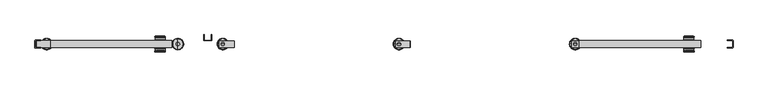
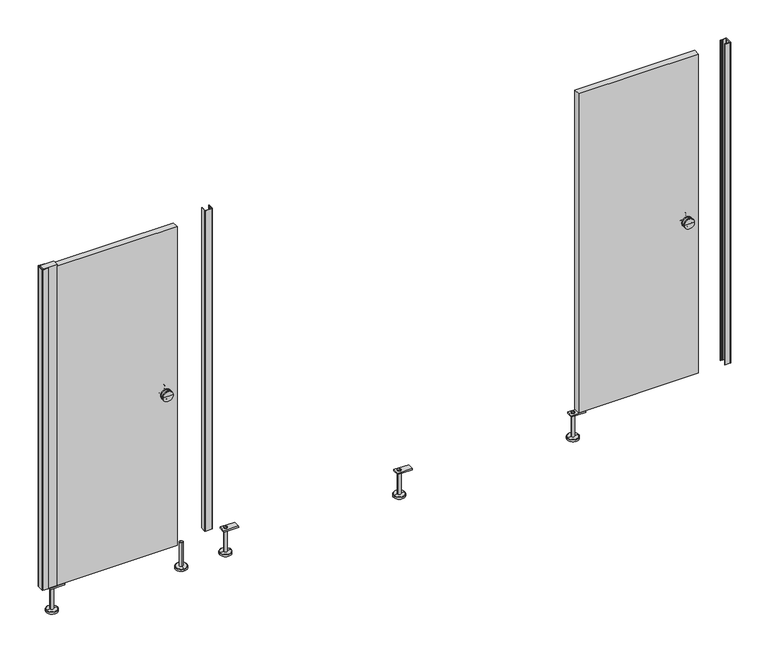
"""IFC4 building model written with IfcOpenShell, lengths in millimetres: proxy geometry, Partition_EuroStyle-Bradley_Corp-4StandardStall-NEP-LOFT : Partition_EuroStyle-Bradley_Corp-4StandardStall-NEP-LOFT."""

from ifc_helpers import new_model, si_unit, point, frame, frame_2d, origin, place, context, project, spatial, polyline, circle_curve, ellipse_curve, trimmed, segment, composite_curve, outline, extrude, source, transform, mapped, element, save
from ifc_brep_helpers import plane_surface, cylinder_surface, revolved_surface, advanced_brep


def specialty_equipment_607a9d4f(model_context):
    return source(origin(), model_context, "Body", "SolidModel", [
        extrude(outline(composite_curve([segment(polyline([(3606.1203249, -1562.4911004), (3606.1203249, -1560.9925148)]), True, "CONTINUOUS"), segment(trimmed(circle_curve(frame_2d((3607.119417, -1560.9960822)), 0.9990984), [point((3606.1203249, -1560.9925148))], [point((3607.9991049, -1560.5224296))], False, "CARTESIAN"), True, "CONTINUOUS"), segment(polyline([(3607.9991049, -1560.5224296), (3615.262755, -1560.6435396)]), True, "CONTINUOUS"), segment(trimmed(circle_curve(frame_2d((3616.1202701, -1561.1610855)), 1.0015917), [point((3615.262755, -1560.6435396))], [point((3616.994565, -1560.6724196))], False, "CARTESIAN"), True, "CONTINUOUS"), segment(polyline([(3616.994565, -1560.6724196), (3634.6307782, -1560.9664751)]), True, "CONTINUOUS"), segment(trimmed(circle_curve(frame_2d((3634.6201048, -1558.9662832)), 2.0002204), [point((3634.6307782, -1560.9664751))], [point((3636.6203252, -1558.9662832))], True, "CARTESIAN"), True, "CONTINUOUS"), segment(polyline([(3636.6203252, -1558.9662832), (3636.6203251, -1525.0819842)]), True, "CONTINUOUS"), segment(trimmed(circle_curve(frame_2d((3634.6212312, -1525.0329646)), 1.9996948), [point((3636.6203251, -1525.0819842))], [point((3634.6203251, -1523.03327))], True, "CARTESIAN"), True, "CONTINUOUS"), segment(polyline([(3634.6203251, -1523.03327), (3616.9943238, -1523.3273213)]), True, "CONTINUOUS"), segment(trimmed(circle_curve(frame_2d((3616.1202701, -1522.8382242)), 1.0015917), [point((3616.9943238, -1523.3273213))], [point((3615.262755, -1523.3557701))], False, "CARTESIAN"), True, "CONTINUOUS"), segment(polyline([(3615.262755, -1523.3557701), (3607.9991049, -1523.4768801)]), True, "CONTINUOUS"), segment(trimmed(circle_curve(frame_2d((3607.119417, -1523.0032275)), 0.9990984), [point((3607.9991049, -1523.4768801))], [point((3606.1203249, -1523.0067949))], False, "CARTESIAN"), True, "CONTINUOUS"), segment(polyline([(3606.1203249, -1523.0067949), (3606.1203249, -1521.5082093), (3636.5911451, -1520.9998702)]), True, "CONTINUOUS"), segment(trimmed(circle_curve(frame_2d((3636.5911451, -1523.0290502)), 2.02918), [point((3636.5911451, -1520.9998702))], [point((3638.6203251, -1523.0290502))], False, "CARTESIAN"), True, "CONTINUOUS"), segment(polyline([(3638.6203251, -1523.0290502), (3638.6203251, -1560.9702595)]), True, "CONTINUOUS"), segment(trimmed(circle_curve(frame_2d((3636.5911451, -1560.9702595)), 2.02918), [point((3638.6203251, -1560.9702595))], [point((3636.5911451, -1562.9994395))], False, "CARTESIAN"), True, "CONTINUOUS"), segment(polyline([(3636.5911451, -1562.9994395), (3606.1203249, -1562.4911004)]), True, "CONTINUOUS")], self_intersect=False)), frame((0.0, 0.0, 150.0), z_axis=(0.0, 0.0, 1.0), x_axis=(1.0, 0.0, 0.0)), (0.0, 0.0, 1.0), 1855.0),
        extrude(outline(composite_curve([segment(polyline([(784.918717, -1491.4999998), (786.4173026, -1491.4999998)]), True, "CONTINUOUS"), segment(trimmed(circle_curve(frame_2d((786.4137352, -1492.4990918)), 0.9990984), [point((786.4173026, -1491.4999998))], [point((786.8873879, -1493.3787798))], False, "CARTESIAN"), True, "CONTINUOUS"), segment(polyline([(786.8873879, -1493.3787798), (786.7662779, -1500.6424298)]), True, "CONTINUOUS"), segment(trimmed(circle_curve(frame_2d((786.248732, -1501.4999449)), 1.0015917), [point((786.7662779, -1500.6424298))], [point((786.7373979, -1502.3742398))], False, "CARTESIAN"), True, "CONTINUOUS"), segment(polyline([(786.7373979, -1502.3742398), (786.4433424, -1520.0104531)]), True, "CONTINUOUS"), segment(trimmed(circle_curve(frame_2d((788.4435342, -1519.9997796)), 2.0002204), [point((786.4433424, -1520.0104531))], [point((788.4435342, -1522.0))], True, "CARTESIAN"), True, "CONTINUOUS"), segment(polyline([(788.4435342, -1522.0), (822.3278332, -1522.0)]), True, "CONTINUOUS"), segment(trimmed(circle_curve(frame_2d((822.3768528, -1520.0009061)), 1.9996948), [point((822.3278332, -1522.0))], [point((824.3765475, -1520.0))], True, "CARTESIAN"), True, "CONTINUOUS"), segment(polyline([(824.3765475, -1520.0), (824.0824961, -1502.3739987)]), True, "CONTINUOUS"), segment(trimmed(circle_curve(frame_2d((824.5715932, -1501.4999449)), 1.0015917), [point((824.0824961, -1502.3739987))], [point((824.0540473, -1500.6424298))], False, "CARTESIAN"), True, "CONTINUOUS"), segment(polyline([(824.0540473, -1500.6424298), (823.9329373, -1493.3787798)]), True, "CONTINUOUS"), segment(trimmed(circle_curve(frame_2d((824.4065899, -1492.4990918)), 0.9990984), [point((823.9329373, -1493.3787798))], [point((824.4030225, -1491.4999998))], False, "CARTESIAN"), True, "CONTINUOUS"), segment(polyline([(824.4030225, -1491.4999998), (825.9016081, -1491.4999998), (826.4099473, -1521.97082)]), True, "CONTINUOUS"), segment(trimmed(circle_curve(frame_2d((824.3807672, -1521.97082)), 2.02918), [point((826.4099473, -1521.97082))], [point((824.3807672, -1524.0))], False, "CARTESIAN"), True, "CONTINUOUS"), segment(polyline([(824.3807672, -1524.0), (786.4395579, -1524.0)]), True, "CONTINUOUS"), segment(trimmed(circle_curve(frame_2d((786.4395579, -1521.97082)), 2.02918), [point((786.4395579, -1524.0))], [point((784.4103779, -1521.97082))], False, "CARTESIAN"), True, "CONTINUOUS"), segment(polyline([(784.4103779, -1521.97082), (784.918717, -1491.4999998)]), True, "CONTINUOUS")], self_intersect=False)), frame((0.0, 0.0, 150.0), z_axis=(0.0, 0.0, 1.0), x_axis=(1.0, 0.0, 0.0)), (0.0, 0.0, 1.0), 1855.0),
        extrude(outline(polyline([(146.0000008, 867.8203258), (138.0669895, 867.8203258), (138.0669895, 947.6675589), (146.0000008, 947.5689968), (146.0000008, 867.8203258)])), frame((0.0, -1559.4621549, 0.0), z_axis=(0.0, 1.0, 0.0), x_axis=(0.0, 0.0, 1.0)), (0.0, 0.0, 1.0), 34.925),
        advanced_brep(
        [(895.4203248, -1541.9996549, 150.0000008), (877.4203255, -1541.9996549, 150.0000008), (877.4203255, -1541.9996549, 12.0000001), (895.4203248, -1541.9996549, 12.0000001), (886.4203251, -1541.9996549, 150.0000008), (917.4203241, -1541.9996549, 0.0), (855.4203262, -1541.9996549, 0.0), (886.4203251, -1541.9996549, 0.0), (917.4203241, -1541.9996549, 10.0000001), (855.4203262, -1541.9996549, 10.0000001), (915.4179122, -1541.9996549, 12.0000001), (857.4227381, -1541.9996549, 12.0000001)],
        [
            (0, 1, circle_curve(frame((886.4203251, -1541.9996549, 150.0000008), z_axis=(0.0, 0.0, -1.0), x_axis=(-1.0, 0.0, 0.0)), 8.9999997)),
            (1, 2),
            (2, 3, circle_curve(frame((886.4203251, -1541.9996549, 12.0000001), z_axis=(0.0, 0.0, 1.0), x_axis=(-1.0, 0.0, 0.0)), 8.9999997)),
            (3, 0),
            (1, 0, circle_curve(frame((886.4203251, -1541.9996549, 150.0000008), z_axis=(0.0, 0.0, -1.0), x_axis=(-1.0, 0.0, 0.0)), 8.9999997)),
            (3, 2, circle_curve(frame((886.4203251, -1541.9996549, 12.0000001), z_axis=(0.0, 0.0, 1.0), x_axis=(-1.0, 0.0, 0.0)), 8.9999997)),
            (4, 1),
            (0, 4),
            (5, 6, circle_curve(frame((886.4203251, -1541.9996549, 0.0), z_axis=(0.0, 0.0, -1.0), x_axis=(-1.0, 0.0, 0.0)), 30.9999989)),
            (6, 7),
            (7, 5),
            (6, 5, circle_curve(frame((886.4203251, -1541.9996549, 0.0), z_axis=(0.0, 0.0, -1.0), x_axis=(-1.0, 0.0, 0.0)), 30.9999989)),
            (8, 9, circle_curve(frame((886.4203251, -1541.9996549, 10.0000001), z_axis=(0.0, 0.0, -1.0), x_axis=(-1.0, 0.0, 0.0)), 30.9999989)),
            (9, 6),
            (5, 8),
            (9, 8, circle_curve(frame((886.4203251, -1541.9996549, 10.0000001), z_axis=(0.0, 0.0, -1.0), x_axis=(-1.0, 0.0, 0.0)), 30.9999989)),
            (10, 11, circle_curve(frame((886.4203251, -1541.9996549, 12.0000001), z_axis=(0.0, 0.0, -1.0), x_axis=(-1.0, 0.0, 0.0)), 28.997587)),
            (11, 9),
            (8, 10),
            (11, 10, circle_curve(frame((886.4203251, -1541.9996549, 12.0000001), z_axis=(0.0, 0.0, -1.0), x_axis=(-1.0, 0.0, 0.0)), 28.997587)),
            (2, 11),
            (10, 3),
        ],
        [
            cylinder_surface(frame((886.4203251, -1541.9996549, 0.0), z_axis=(0.0, 0.0, 1.0), x_axis=(-1.0, 0.0, 0.0)), 8.9999997),
            plane_surface(frame((886.4203251, -1541.9996549, 150.0000008), z_axis=(0.0, 0.0, 1.0), x_axis=(-1.0, 0.0, 0.0))),
            plane_surface(frame((886.4203251, -1541.9996549, 0.0), z_axis=(0.0, 0.0, -1.0), x_axis=(-1.0, 0.0, 0.0))),
            cylinder_surface(frame((886.4203251, -1541.9996549, 0.0), z_axis=(0.0, 0.0, 1.0), x_axis=(-1.0, 0.0, 0.0)), 30.9999989),
            revolved_surface(polyline([(855.4203262, -1541.9996549, 10.0000001), (857.4227381, -1541.9996549, 12.0000001)]), (886.4203251, -1541.9996549, 0.0), (0.0, 0.0, 1.0)),
            plane_surface(frame((886.4203251, -1541.9996549, 12.0000001), z_axis=(0.0, 0.0, 1.0), x_axis=(-1.0, 0.0, 0.0))),
        ],
        [
            (0, [[1, 2, 3, 4]]),
            (0, [[5, -4, 6, -2]]),
            (1, [[7, -1, 8]]),
            (1, [[-8, -5, -7]]),
            (2, [[9, 10, 11]]),
            (2, [[12, -11, -10]]),
            (3, [[13, 14, -9, 15]]),
            (3, [[16, -15, -12, -14]]),
            (4, [[17, 18, -13, 19]]),
            (4, [[20, -19, -16, -18]]),
            (5, [[-3, 21, -17, 22]]),
            (5, [[-6, -22, -20, -21]]),
        ],
    ),
        advanced_brep(
        [(520.025, -1524.0203251, 1050.0), (577.175, -1524.0203251, 1050.0), (548.6, -1524.0203251, 1050.0), (520.025, -1519.2578251, 1050.0), (577.175, -1519.2578251, 1050.0), (520.025, -1500.2078251, 1050.0), (577.175, -1500.2078251, 1050.0), (577.175, -1504.9703251, 1050.0), (520.025, -1504.9703251, 1050.0), (575.5875, -1506.5578251, 1050.0), (521.6125, -1506.5578251, 1050.0), (575.5875, -1517.6703251, 1050.0), (521.6125, -1517.6703251, 1050.0), (548.6, -1498.6203251, 1050.0)],
        [
            (0, 1, circle_curve(frame((548.6, -1524.0203251, 1050.0), z_axis=(0.0, -1.0, 0.0), x_axis=(1.0000000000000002, 0.0, 0.0)), 28.575)),
            (1, 2),
            (2, 0),
            (1, 0, circle_curve(frame((548.6, -1524.0203251, 1050.0), z_axis=(0.0, -1.0, 0.0), x_axis=(1.0000000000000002, 0.0, 0.0)), 28.575)),
            (3, 4, circle_curve(frame((548.6, -1519.2578251, 1050.0), z_axis=(0.0, -1.0, 0.0), x_axis=(1.0000000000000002, 0.0, 0.0)), 28.575)),
            (4, 1),
            (0, 3),
            (4, 3, circle_curve(frame((548.6, -1519.2578251, 1050.0), z_axis=(0.0, -1.0, 0.0), x_axis=(1.0000000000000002, 0.0, 0.0)), 28.575)),
            (5, 6, circle_curve(frame((548.6, -1500.2078251, 1050.0), z_axis=(0.0, -1.0, 0.0), x_axis=(1.0000000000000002, 0.0, 0.0)), 28.575)),
            (6, 7),
            (7, 8, circle_curve(frame((548.6, -1504.9703251, 1050.0), z_axis=(0.0, 1.0, 0.0), x_axis=(1.0000000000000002, 0.0, 0.0)), 28.575)),
            (8, 5),
            (6, 5, circle_curve(frame((548.6, -1500.2078251, 1050.0), z_axis=(0.0, -1.0, 0.0), x_axis=(1.0000000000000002, 0.0, 0.0)), 28.575)),
            (8, 7, circle_curve(frame((548.6, -1504.9703251, 1050.0), z_axis=(0.0, 1.0, 0.0), x_axis=(1.0000000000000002, 0.0, 0.0)), 28.575)),
            (7, 9, circle_curve(frame((577.175, -1506.5578251, 1050.0), z_axis=(0.0, 0.0, 1.0), x_axis=(1.0000000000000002, 0.0, 0.0)), 1.5875)),
            (9, 10, circle_curve(frame((548.6, -1506.5578251, 1050.0), z_axis=(0.0, 1.0, 0.0), x_axis=(1.0000000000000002, 0.0, 0.0)), 26.9875)),
            (10, 8, circle_curve(frame((520.025, -1506.5578251, 1050.0), z_axis=(0.0, 0.0, 1.0), x_axis=(-1.0000000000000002, 0.0, 0.0)), 1.5875)),
            (10, 9, circle_curve(frame((548.6, -1506.5578251, 1050.0), z_axis=(0.0, 1.0, 0.0), x_axis=(1.0000000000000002, 0.0, 0.0)), 26.9875)),
            (9, 11),
            (11, 12, circle_curve(frame((548.6, -1517.6703251, 1050.0), z_axis=(0.0, 1.0, 0.0), x_axis=(1.0000000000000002, 0.0, 0.0)), 26.9875)),
            (12, 10),
            (12, 11, circle_curve(frame((548.6, -1517.6703251, 1050.0), z_axis=(0.0, 1.0, 0.0), x_axis=(1.0000000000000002, 0.0, 0.0)), 26.9875)),
            (11, 4, circle_curve(frame((577.175, -1517.6703251, 1050.0), z_axis=(0.0, 0.0, 1.0), x_axis=(1.0000000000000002, 0.0, 0.0)), 1.5875)),
            (3, 12, circle_curve(frame((520.025, -1517.6703251, 1050.0), z_axis=(0.0, 0.0, 1.0), x_axis=(-1.0000000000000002, 0.0, 0.0)), 1.5875)),
            (13, 6, circle_curve(frame((552.2941234, -1690.0948544, 1050.0), z_axis=(0.0, 0.0, -1.0), x_axis=(1.0000000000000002, 0.0, 0.0)), 191.5101613)),
            (5, 13, circle_curve(frame((544.9058766, -1690.0948544, 1050.0), z_axis=(0.0, 0.0, -1.0), x_axis=(-1.0000000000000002, 0.0, 0.0)), 191.5101613)),
        ],
        [
            plane_surface(frame((548.6, -1524.0203251, 1050.0), z_axis=(0.0, -1.0, 0.0), x_axis=(1.0, 0.0, 0.0))),
            cylinder_surface(frame((548.6, -1524.0203251, 1050.0), z_axis=(0.0, 1.0000000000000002, 0.0), x_axis=(1.0000000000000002, 0.0, 0.0)), 28.575),
            revolved_surface(trimmed(ellipse_curve(frame((577.175, -1506.5578251, 1050.0), z_axis=(0.0, 0.0, -1.0), x_axis=(1.0000000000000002, 0.0, 0.0)), 1.5875, 1.5875), [point((575.5875, -1506.5578251, 1050.0))], [point((577.175, -1504.9703251, 1050.0))], True, "CARTESIAN"), (548.6, -1524.0203251, 1050.0), (0.0, 1.0000000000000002, 0.0)),
            cylinder_surface(frame((548.6, -1524.0203251, 1050.0), z_axis=(0.0, 1.0000000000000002, 0.0), x_axis=(1.0000000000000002, 0.0, 0.0)), 26.9875),
            revolved_surface(trimmed(ellipse_curve(frame((577.175, -1517.6703251, 1050.0), z_axis=(0.0, 0.0, -1.0), x_axis=(1.0000000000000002, 0.0, 0.0)), 1.5875, 1.5875), [point((577.175, -1519.2578251, 1050.0))], [point((575.5875, -1517.6703251, 1050.0))], True, "CARTESIAN"), (548.6, -1524.0203251, 1050.0), (0.0, 1.0000000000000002, 0.0)),
            revolved_surface(trimmed(ellipse_curve(frame((552.2941234, -1690.0948544, 1050.0), z_axis=(0.0, 0.0, 1.0), x_axis=(1.0000000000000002, 0.0, 0.0)), 191.5101613, 191.5101613), [point((577.175, -1500.2078251, 1050.0))], [point((548.6, -1498.6203251, 1050.0))], True, "CARTESIAN"), (548.6, -1524.0203251, 1050.0), (0.0, 1.0000000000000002, 0.0)),
        ],
        [
            (0, [[1, 2, 3]]),
            (0, [[4, -3, -2]]),
            (1, [[5, 6, -1, 7]]),
            (1, [[8, -7, -4, -6]]),
            (1, [[9, 10, 11, 12]]),
            (1, [[13, -12, 14, -10]]),
            (2, [[-11, 15, 16, 17]]),
            (2, [[-14, -17, 18, -15]]),
            (3, [[-16, 19, 20, 21]]),
            (3, [[-18, -21, 22, -19]]),
            (4, [[-20, 23, -5, 24]]),
            (4, [[-22, -24, -8, -23]]),
            (5, [[25, -9, 26]]),
            (5, [[-26, -13, -25]]),
        ],
    ),
        advanced_brep(
        [(548.6, -1560.0203251, 1050.0), (577.175, -1560.0203251, 1050.0), (520.025, -1560.0203251, 1050.0), (577.175, -1564.7828251, 1050.0), (520.025, -1564.7828251, 1050.0), (520.025, -1579.0703251, 1050.0), (577.175, -1579.0703251, 1050.0), (577.175, -1583.8328251, 1050.0), (520.025, -1583.8328251, 1050.0), (521.6125, -1577.4828251, 1050.0), (575.5875, -1577.4828251, 1050.0), (521.6125, -1566.3703251, 1050.0), (575.5875, -1566.3703251, 1050.0), (548.6, -1585.4203251, 1050.0)],
        [
            (0, 1),
            (1, 2, circle_curve(frame((548.6, -1560.0203251, 1050.0), z_axis=(0.0, 1.0, 0.0), x_axis=(1.0000000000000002, 0.0, 0.0)), 28.575)),
            (2, 0),
            (2, 1, circle_curve(frame((548.6, -1560.0203251, 1050.0), z_axis=(0.0, 1.0, 0.0), x_axis=(1.0000000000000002, 0.0, 0.0)), 28.575)),
            (1, 3),
            (3, 4, circle_curve(frame((548.6, -1564.7828251, 1050.0), z_axis=(0.0, 1.0, 0.0), x_axis=(1.0000000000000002, 0.0, 0.0)), 28.575)),
            (4, 2),
            (4, 3, circle_curve(frame((548.6, -1564.7828251, 1050.0), z_axis=(0.0, 1.0, 0.0), x_axis=(1.0000000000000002, 0.0, 0.0)), 28.575)),
            (5, 6, circle_curve(frame((548.6, -1579.0703251, 1050.0), z_axis=(0.0, -1.0, 0.0), x_axis=(1.0000000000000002, 0.0, 0.0)), 28.575)),
            (6, 7),
            (7, 8, circle_curve(frame((548.6, -1583.8328251, 1050.0), z_axis=(0.0, 1.0, 0.0), x_axis=(1.0000000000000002, 0.0, 0.0)), 28.575)),
            (8, 5),
            (6, 5, circle_curve(frame((548.6, -1579.0703251, 1050.0), z_axis=(0.0, -1.0, 0.0), x_axis=(1.0000000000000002, 0.0, 0.0)), 28.575)),
            (8, 7, circle_curve(frame((548.6, -1583.8328251, 1050.0), z_axis=(0.0, 1.0, 0.0), x_axis=(1.0000000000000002, 0.0, 0.0)), 28.575)),
            (9, 10, circle_curve(frame((548.6, -1577.4828251, 1050.0), z_axis=(0.0, -1.0, 0.0), x_axis=(1.0000000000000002, 0.0, 0.0)), 26.9875)),
            (10, 6, circle_curve(frame((577.175, -1577.4828251, 1050.0), z_axis=(0.0, 0.0, 1.0), x_axis=(1.0000000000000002, 0.0, 0.0)), 1.5875)),
            (5, 9, circle_curve(frame((520.025, -1577.4828251, 1050.0), z_axis=(0.0, 0.0, 1.0), x_axis=(-1.0000000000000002, 0.0, 0.0)), 1.5875)),
            (10, 9, circle_curve(frame((548.6, -1577.4828251, 1050.0), z_axis=(0.0, -1.0, 0.0), x_axis=(1.0000000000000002, 0.0, 0.0)), 26.9875)),
            (11, 12, circle_curve(frame((548.6, -1566.3703251, 1050.0), z_axis=(0.0, -1.0, 0.0), x_axis=(1.0000000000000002, 0.0, 0.0)), 26.9875)),
            (12, 10),
            (9, 11),
            (12, 11, circle_curve(frame((548.6, -1566.3703251, 1050.0), z_axis=(0.0, -1.0, 0.0), x_axis=(1.0000000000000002, 0.0, 0.0)), 26.9875)),
            (3, 12, circle_curve(frame((577.175, -1566.3703251, 1050.0), z_axis=(0.0, 0.0, 1.0), x_axis=(1.0000000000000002, 0.0, 0.0)), 1.5875)),
            (11, 4, circle_curve(frame((520.025, -1566.3703251, 1050.0), z_axis=(0.0, 0.0, 1.0), x_axis=(-1.0000000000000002, 0.0, 0.0)), 1.5875)),
            (7, 13, circle_curve(frame((552.2941234, -1393.9457959, 1050.0), z_axis=(0.0, 0.0, -1.0), x_axis=(1.0000000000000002, 0.0, 0.0)), 191.5101613)),
            (13, 8, circle_curve(frame((544.9058766, -1393.9457959, 1050.0), z_axis=(0.0, 0.0, -1.0), x_axis=(-1.0000000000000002, 0.0, 0.0)), 191.5101613)),
        ],
        [
            plane_surface(frame((548.6, -1560.0203251, 1050.0), z_axis=(0.0, 1.0, 0.0), x_axis=(1.0, 0.0, 0.0))),
            cylinder_surface(frame((548.6, -1560.0203251, 1050.0), z_axis=(0.0, 1.0000000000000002, 0.0), x_axis=(1.0000000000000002, 0.0, 0.0)), 28.575),
            revolved_surface(trimmed(ellipse_curve(frame((577.175, -1577.4828251, 1050.0), z_axis=(0.0, 0.0, -1.0), x_axis=(1.0000000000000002, 0.0, 0.0)), 1.5875, 1.5875), [point((577.175, -1579.0703251, 1050.0))], [point((575.5875, -1577.4828251, 1050.0))], True, "CARTESIAN"), (548.6, -1560.0203251, 1050.0), (0.0, 1.0000000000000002, 0.0)),
            cylinder_surface(frame((548.6, -1560.0203251, 1050.0), z_axis=(0.0, 1.0000000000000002, 0.0), x_axis=(1.0000000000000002, 0.0, 0.0)), 26.9875),
            revolved_surface(trimmed(ellipse_curve(frame((577.175, -1566.3703251, 1050.0), z_axis=(0.0, 0.0, -1.0), x_axis=(1.0000000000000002, 0.0, 0.0)), 1.5875, 1.5875), [point((575.5875, -1566.3703251, 1050.0))], [point((577.175, -1564.7828251, 1050.0))], True, "CARTESIAN"), (548.6, -1560.0203251, 1050.0), (0.0, 1.0000000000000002, 0.0)),
            revolved_surface(trimmed(ellipse_curve(frame((552.2941234, -1393.9457959, 1050.0), z_axis=(0.0, 0.0, 1.0), x_axis=(1.0000000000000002, 0.0, 0.0)), 191.5101613, 191.5101613), [point((548.6, -1585.4203251, 1050.0))], [point((577.175, -1583.8328251, 1050.0))], True, "CARTESIAN"), (548.6, -1560.0203251, 1050.0), (0.0, 1.0000000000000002, 0.0)),
        ],
        [
            (0, [[1, 2, 3]]),
            (0, [[-3, 4, -1]]),
            (1, [[-2, 5, 6, 7]]),
            (1, [[-4, -7, 8, -5]]),
            (1, [[9, 10, 11, 12]]),
            (1, [[13, -12, 14, -10]]),
            (2, [[15, 16, -9, 17]]),
            (2, [[18, -17, -13, -16]]),
            (3, [[19, 20, -15, 21]]),
            (3, [[22, -21, -18, -20]]),
            (4, [[-6, 23, -19, 24]]),
            (4, [[-8, -24, -22, -23]]),
            (5, [[-11, 25, 26]]),
            (5, [[-14, -26, -25]]),
        ],
    ),
        extrude(outline(polyline([(-43.0030863, -1524.0), (612.1, -1524.0), (612.1, -1560.0203251), (-43.0030863, -1560.0203251), (-43.0030863, -1524.0)])), frame((0.0, 0.0, 150.0), z_axis=(0.0, 0.0, 1.0), x_axis=(1.0, 0.0, 0.0)), (0.0, 0.0, 1.0), 1846.0),
        extrude(outline(composite_curve([segment(polyline([(-94.4999998, -1521.518717), (-94.4999998, -1523.0173026)]), True, "CONTINUOUS"), segment(trimmed(circle_curve(frame_2d((-95.4990918, -1523.0137352)), 0.9990984), [point((-94.4999998, -1523.0173026))], [point((-96.3787798, -1523.4873879))], False, "CARTESIAN"), True, "CONTINUOUS"), segment(polyline([(-96.3787798, -1523.4873879), (-103.6424298, -1523.3662779)]), True, "CONTINUOUS"), segment(trimmed(circle_curve(frame_2d((-104.4999449, -1522.848732)), 1.0015917), [point((-103.6424298, -1523.3662779))], [point((-105.3742398, -1523.3373979))], False, "CARTESIAN"), True, "CONTINUOUS"), segment(polyline([(-105.3742398, -1523.3373979), (-123.0104531, -1523.0433424)]), True, "CONTINUOUS"), segment(trimmed(circle_curve(frame_2d((-122.9997796, -1525.0435342)), 2.0002204), [point((-123.0104531, -1523.0433424))], [point((-125.0, -1525.0435342))], True, "CARTESIAN"), True, "CONTINUOUS"), segment(polyline([(-125.0, -1525.0435342), (-125.0, -1558.9278332)]), True, "CONTINUOUS"), segment(trimmed(circle_curve(frame_2d((-123.0009061, -1558.9768528)), 1.9996948), [point((-125.0, -1558.9278332))], [point((-123.0, -1560.9765475))], True, "CARTESIAN"), True, "CONTINUOUS"), segment(polyline([(-123.0, -1560.9765475), (-105.3739987, -1560.6824961)]), True, "CONTINUOUS"), segment(trimmed(circle_curve(frame_2d((-104.4999449, -1561.1715932)), 1.0015917), [point((-105.3739987, -1560.6824961))], [point((-103.6424298, -1560.6540473))], False, "CARTESIAN"), True, "CONTINUOUS"), segment(polyline([(-103.6424298, -1560.6540473), (-96.3787798, -1560.5329373)]), True, "CONTINUOUS"), segment(trimmed(circle_curve(frame_2d((-95.4990918, -1561.0065899)), 0.9990984), [point((-96.3787798, -1560.5329373))], [point((-94.4999998, -1561.0030225))], False, "CARTESIAN"), True, "CONTINUOUS"), segment(polyline([(-94.4999998, -1561.0030225), (-94.4999998, -1562.5016081), (-124.97082, -1563.0099473)]), True, "CONTINUOUS"), segment(trimmed(circle_curve(frame_2d((-124.97082, -1560.9807672)), 2.02918), [point((-124.97082, -1563.0099473))], [point((-127.0, -1560.9807672))], False, "CARTESIAN"), True, "CONTINUOUS"), segment(polyline([(-127.0, -1560.9807672), (-127.0, -1523.0395579)]), True, "CONTINUOUS"), segment(trimmed(circle_curve(frame_2d((-124.97082, -1523.0395579)), 2.02918), [point((-127.0, -1523.0395579))], [point((-124.97082, -1521.0103779))], False, "CARTESIAN"), True, "CONTINUOUS"), segment(polyline([(-124.97082, -1521.0103779), (-94.4999998, -1521.518717)]), True, "CONTINUOUS")], self_intersect=False)), frame((0.0, 0.0, 150.0), z_axis=(0.0, 0.0, 1.0), x_axis=(1.0, 0.0, 0.0)), (0.0, 0.0, 1.0), 1855.0),
        extrude(outline(polyline([(146.0000008, -82.1018307), (138.0669895, -82.1018307), (138.0669895, -2.2545975), (146.0000008, -2.3531596), (146.0000008, -82.1018307)])), frame((0.0, -1559.4726626, 0.0), z_axis=(0.0, 1.0, 0.0), x_axis=(0.0, 0.0, 1.0)), (0.0, 0.0, 1.0), 34.925),
        advanced_brep(
        [(-54.5018316, -1542.0101626, 150.0000008), (-72.501831, -1542.0101626, 150.0000008), (-72.501831, -1542.0101626, 12.0000001), (-54.5018316, -1542.0101626, 12.0000001), (-63.5018313, -1542.0101626, 150.0000008), (-32.5018323, -1542.0101626, 0.0), (-94.5018302, -1542.0101626, 0.0), (-63.5018313, -1542.0101626, 0.0), (-32.5018323, -1542.0101626, 10.0000001), (-94.5018302, -1542.0101626, 10.0000001), (-34.5042443, -1542.0101626, 12.0000001), (-92.4994183, -1542.0101626, 12.0000001)],
        [
            (0, 1, circle_curve(frame((-63.5018313, -1542.0101626, 150.0000008), z_axis=(0.0, 0.0, -1.0), x_axis=(-1.0, 0.0, 0.0)), 8.9999997)),
            (1, 2),
            (2, 3, circle_curve(frame((-63.5018313, -1542.0101626, 12.0000001), z_axis=(0.0, 0.0, 1.0), x_axis=(-1.0, 0.0, 0.0)), 8.9999997)),
            (3, 0),
            (1, 0, circle_curve(frame((-63.5018313, -1542.0101626, 150.0000008), z_axis=(0.0, 0.0, -1.0), x_axis=(-1.0, 0.0, 0.0)), 8.9999997)),
            (3, 2, circle_curve(frame((-63.5018313, -1542.0101626, 12.0000001), z_axis=(0.0, 0.0, 1.0), x_axis=(-1.0, 0.0, 0.0)), 8.9999997)),
            (4, 1),
            (0, 4),
            (5, 6, circle_curve(frame((-63.5018313, -1542.0101626, 0.0), z_axis=(0.0, 0.0, -1.0), x_axis=(-1.0, 0.0, 0.0)), 30.9999989)),
            (6, 7),
            (7, 5),
            (6, 5, circle_curve(frame((-63.5018313, -1542.0101626, 0.0), z_axis=(0.0, 0.0, -1.0), x_axis=(-1.0, 0.0, 0.0)), 30.9999989)),
            (8, 9, circle_curve(frame((-63.5018313, -1542.0101626, 10.0000001), z_axis=(0.0, 0.0, -1.0), x_axis=(-1.0, 0.0, 0.0)), 30.9999989)),
            (9, 6),
            (5, 8),
            (9, 8, circle_curve(frame((-63.5018313, -1542.0101626, 10.0000001), z_axis=(0.0, 0.0, -1.0), x_axis=(-1.0, 0.0, 0.0)), 30.9999989)),
            (10, 11, circle_curve(frame((-63.5018313, -1542.0101626, 12.0000001), z_axis=(0.0, 0.0, -1.0), x_axis=(-1.0, 0.0, 0.0)), 28.997587)),
            (11, 9),
            (8, 10),
            (11, 10, circle_curve(frame((-63.5018313, -1542.0101626, 12.0000001), z_axis=(0.0, 0.0, -1.0), x_axis=(-1.0, 0.0, 0.0)), 28.997587)),
            (2, 11),
            (10, 3),
        ],
        [
            cylinder_surface(frame((-63.5018313, -1542.0101626, 0.0), z_axis=(0.0, 0.0, 1.0), x_axis=(-1.0, 0.0, 0.0)), 8.9999997),
            plane_surface(frame((-63.5018313, -1542.0101626, 150.0000008), z_axis=(0.0, 0.0, 1.0), x_axis=(-1.0, 0.0, 0.0))),
            plane_surface(frame((-63.5018313, -1542.0101626, 0.0), z_axis=(0.0, 0.0, -1.0), x_axis=(-1.0, 0.0, 0.0))),
            cylinder_surface(frame((-63.5018313, -1542.0101626, 0.0), z_axis=(0.0, 0.0, 1.0), x_axis=(-1.0, 0.0, 0.0)), 30.9999989),
            revolved_surface(polyline([(-94.5018302, -1542.0101626, 10.0000001), (-92.4994183, -1542.0101626, 12.0000001)]), (-63.5018313, -1542.0101626, 0.0), (0.0, 0.0, 1.0)),
            plane_surface(frame((-63.5018313, -1542.0101626, 12.0000001), z_axis=(0.0, 0.0, 1.0), x_axis=(-1.0, 0.0, 0.0))),
        ],
        [
            (0, [[1, 2, 3, 4]]),
            (0, [[5, -4, 6, -2]]),
            (1, [[7, -1, 8]]),
            (1, [[-8, -5, -7]]),
            (2, [[9, 10, 11]]),
            (2, [[12, -11, -10]]),
            (3, [[13, 14, -9, 15]]),
            (3, [[16, -15, -12, -14]]),
            (4, [[17, 18, -13, 19]]),
            (4, [[20, -19, -16, -18]]),
            (5, [[-3, 21, -17, 22]]),
            (5, [[-6, -22, -20, -21]]),
        ],
    ),
        extrude(outline(polyline([(-117.000072, -1524.0), (-43.0032348, -1524.0), (-43.0032348, -1560.0203251), (-117.000072, -1560.0203251), (-117.000072, -1524.0)])), frame((0.0, 0.0, 150.0), z_axis=(0.0, 0.0, 1.0), x_axis=(1.0, 0.0, 0.0)), (0.0, 0.0, 1.0), 1855.0),
        advanced_brep(
        [(644.0351626, -1532.9996552, 150.0000008), (644.0351626, -1550.9996545, 150.0000008), (644.0351626, -1550.9996545, 12.0000001), (644.0351626, -1532.9996552, 12.0000001), (644.0351626, -1541.9996549, 150.0000008), (644.0351626, -1510.9996559, 0.0), (644.0351626, -1572.9996538, 0.0), (644.0351626, -1541.9996549, 0.0), (644.0351626, -1510.9996559, 10.0000001), (644.0351626, -1572.9996538, 10.0000001), (644.0351626, -1513.0020678, 12.0000001), (644.0351626, -1570.9972419, 12.0000001)],
        [
            (0, 1, circle_curve(frame((644.0351626, -1541.9996549, 150.0000008), z_axis=(0.0, 0.0, -1.0), x_axis=(0.0, -1.0, 0.0)), 8.9999997)),
            (1, 2),
            (2, 3, circle_curve(frame((644.0351626, -1541.9996549, 12.0000001), z_axis=(0.0, 0.0, 1.0), x_axis=(0.0, -1.0, 0.0)), 8.9999997)),
            (3, 0),
            (1, 0, circle_curve(frame((644.0351626, -1541.9996549, 150.0000008), z_axis=(0.0, 0.0, -1.0), x_axis=(0.0, -1.0, 0.0)), 8.9999997)),
            (3, 2, circle_curve(frame((644.0351626, -1541.9996549, 12.0000001), z_axis=(0.0, 0.0, 1.0), x_axis=(0.0, -1.0, 0.0)), 8.9999997)),
            (4, 1),
            (0, 4),
            (5, 6, circle_curve(frame((644.0351626, -1541.9996549, 0.0), z_axis=(0.0, 0.0, -1.0), x_axis=(0.0, -1.0, 0.0)), 30.9999989)),
            (6, 7),
            (7, 5),
            (6, 5, circle_curve(frame((644.0351626, -1541.9996549, 0.0), z_axis=(0.0, 0.0, -1.0), x_axis=(0.0, -1.0, 0.0)), 30.9999989)),
            (8, 9, circle_curve(frame((644.0351626, -1541.9996549, 10.0000001), z_axis=(0.0, 0.0, -1.0), x_axis=(0.0, -1.0, 0.0)), 30.9999989)),
            (9, 6),
            (5, 8),
            (9, 8, circle_curve(frame((644.0351626, -1541.9996549, 10.0000001), z_axis=(0.0, 0.0, -1.0), x_axis=(0.0, -1.0, 0.0)), 30.9999989)),
            (10, 11, circle_curve(frame((644.0351626, -1541.9996549, 12.0000001), z_axis=(0.0, 0.0, -1.0), x_axis=(0.0, -1.0, 0.0)), 28.997587)),
            (11, 9),
            (8, 10),
            (11, 10, circle_curve(frame((644.0351626, -1541.9996549, 12.0000001), z_axis=(0.0, 0.0, -1.0), x_axis=(0.0, -1.0, 0.0)), 28.997587)),
            (2, 11),
            (10, 3),
        ],
        [
            cylinder_surface(frame((644.0351626, -1541.9996549, 0.0), z_axis=(0.0, 0.0, 1.0), x_axis=(0.0, -1.0, 0.0)), 8.9999997),
            plane_surface(frame((644.0351626, -1541.9996549, 150.0000008), z_axis=(0.0, 0.0, 1.0), x_axis=(0.0, -1.0, 0.0))),
            plane_surface(frame((644.0351626, -1541.9996549, 0.0), z_axis=(0.0, 0.0, -1.0), x_axis=(0.0, -1.0, 0.0))),
            cylinder_surface(frame((644.0351626, -1541.9996549, 0.0), z_axis=(0.0, 0.0, 1.0), x_axis=(0.0, -1.0, 0.0)), 30.9999989),
            revolved_surface(polyline([(644.0351626, -1572.9996538, 10.0000001), (644.0351626, -1570.9972419, 12.0000001)]), (644.0351626, -1541.9996549, 0.0), (0.0, 0.0, 1.0)),
            plane_surface(frame((644.0351626, -1541.9996549, 12.0000001), z_axis=(0.0, 0.0, 1.0), x_axis=(0.0, -1.0, 0.0))),
        ],
        [
            (0, [[1, 2, 3, 4]]),
            (0, [[5, -4, 6, -2]]),
            (1, [[7, -1, 8]]),
            (1, [[-8, -5, -7]]),
            (2, [[9, 10, 11]]),
            (2, [[12, -11, -10]]),
            (3, [[13, 14, -9, 15]]),
            (3, [[16, -15, -12, -14]]),
            (4, [[17, 18, -13, 19]]),
            (4, [[20, -19, -16, -18]]),
            (5, [[-3, 21, -17, 22]]),
            (5, [[-6, -22, -20, -21]]),
        ],
    ),
        extrude(outline(polyline([(146.0000008, 2768.6203258), (138.0669895, 2768.6203258), (138.0669895, 2848.4675589), (146.0000008, 2848.3689968), (146.0000008, 2768.6203258)])), frame((0.0, -1559.4621549, 0.0), z_axis=(0.0, 1.0, 0.0), x_axis=(0.0, 0.0, 1.0)), (0.0, 0.0, 1.0), 34.925),
        advanced_brep(
        [(2796.2203248, -1541.9996549, 150.0000008), (2778.2203255, -1541.9996549, 150.0000008), (2778.2203255, -1541.9996549, 12.0000001), (2796.2203248, -1541.9996549, 12.0000001), (2787.2203251, -1541.9996549, 150.0000008), (2818.2203241, -1541.9996549, 0.0), (2756.2203262, -1541.9996549, 0.0), (2787.2203251, -1541.9996549, 0.0), (2818.2203241, -1541.9996549, 10.0000001), (2756.2203262, -1541.9996549, 10.0000001), (2816.2179122, -1541.9996549, 12.0000001), (2758.2227381, -1541.9996549, 12.0000001)],
        [
            (0, 1, circle_curve(frame((2787.2203251, -1541.9996549, 150.0000008), z_axis=(0.0, 0.0, -1.0), x_axis=(-1.0, 0.0, 0.0)), 8.9999997)),
            (1, 2),
            (2, 3, circle_curve(frame((2787.2203251, -1541.9996549, 12.0000001), z_axis=(0.0, 0.0, 1.0), x_axis=(-1.0, 0.0, 0.0)), 8.9999997)),
            (3, 0),
            (1, 0, circle_curve(frame((2787.2203251, -1541.9996549, 150.0000008), z_axis=(0.0, 0.0, -1.0), x_axis=(-1.0, 0.0, 0.0)), 8.9999997)),
            (3, 2, circle_curve(frame((2787.2203251, -1541.9996549, 12.0000001), z_axis=(0.0, 0.0, 1.0), x_axis=(-1.0, 0.0, 0.0)), 8.9999997)),
            (4, 1),
            (0, 4),
            (5, 6, circle_curve(frame((2787.2203251, -1541.9996549, 0.0), z_axis=(0.0, 0.0, -1.0), x_axis=(-1.0, 0.0, 0.0)), 30.9999989)),
            (6, 7),
            (7, 5),
            (6, 5, circle_curve(frame((2787.2203251, -1541.9996549, 0.0), z_axis=(0.0, 0.0, -1.0), x_axis=(-1.0, 0.0, 0.0)), 30.9999989)),
            (8, 9, circle_curve(frame((2787.2203251, -1541.9996549, 10.0000001), z_axis=(0.0, 0.0, -1.0), x_axis=(-1.0, 0.0, 0.0)), 30.9999989)),
            (9, 6),
            (5, 8),
            (9, 8, circle_curve(frame((2787.2203251, -1541.9996549, 10.0000001), z_axis=(0.0, 0.0, -1.0), x_axis=(-1.0, 0.0, 0.0)), 30.9999989)),
            (10, 11, circle_curve(frame((2787.2203251, -1541.9996549, 12.0000001), z_axis=(0.0, 0.0, -1.0), x_axis=(-1.0, 0.0, 0.0)), 28.997587)),
            (11, 9),
            (8, 10),
            (11, 10, circle_curve(frame((2787.2203251, -1541.9996549, 12.0000001), z_axis=(0.0, 0.0, -1.0), x_axis=(-1.0, 0.0, 0.0)), 28.997587)),
            (2, 11),
            (10, 3),
        ],
        [
            cylinder_surface(frame((2787.2203251, -1541.9996549, 0.0), z_axis=(0.0, 0.0, 1.0), x_axis=(-1.0, 0.0, 0.0)), 8.9999997),
            plane_surface(frame((2787.2203251, -1541.9996549, 150.0000008), z_axis=(0.0, 0.0, 1.0), x_axis=(-1.0, 0.0, 0.0))),
            plane_surface(frame((2787.2203251, -1541.9996549, 0.0), z_axis=(0.0, 0.0, -1.0), x_axis=(-1.0, 0.0, 0.0))),
            cylinder_surface(frame((2787.2203251, -1541.9996549, 0.0), z_axis=(0.0, 0.0, 1.0), x_axis=(-1.0, 0.0, 0.0)), 30.9999989),
            revolved_surface(polyline([(2756.2203262, -1541.9996549, 10.0000001), (2758.2227381, -1541.9996549, 12.0000001)]), (2787.2203251, -1541.9996549, 0.0), (0.0, 0.0, 1.0)),
            plane_surface(frame((2787.2203251, -1541.9996549, 12.0000001), z_axis=(0.0, 0.0, 1.0), x_axis=(-1.0, 0.0, 0.0))),
        ],
        [
            (0, [[1, 2, 3, 4]]),
            (0, [[5, -4, 6, -2]]),
            (1, [[7, -1, 8]]),
            (1, [[-8, -5, -7]]),
            (2, [[9, 10, 11]]),
            (2, [[12, -11, -10]]),
            (3, [[13, 14, -9, 15]]),
            (3, [[16, -15, -12, -14]]),
            (4, [[17, 18, -13, 19]]),
            (4, [[20, -19, -16, -18]]),
            (5, [[-3, 21, -17, 22]]),
            (5, [[-6, -22, -20, -21]]),
        ],
    ),
        extrude(outline(polyline([(146.0000008, 1818.2203258), (138.0669895, 1818.2203258), (138.0669895, 1898.0675589), (146.0000008, 1897.9689968), (146.0000008, 1818.2203258)])), frame((0.0, -1559.4621549, 0.0), z_axis=(0.0, 1.0, 0.0), x_axis=(0.0, 0.0, 1.0)), (0.0, 0.0, 1.0), 34.925),
        advanced_brep(
        [(1845.8203248, -1541.9996549, 150.0000008), (1827.8203255, -1541.9996549, 150.0000008), (1827.8203255, -1541.9996549, 12.0000001), (1845.8203248, -1541.9996549, 12.0000001), (1836.8203251, -1541.9996549, 150.0000008), (1867.8203241, -1541.9996549, 0.0), (1805.8203262, -1541.9996549, 0.0), (1836.8203251, -1541.9996549, 0.0), (1867.8203241, -1541.9996549, 10.0000001), (1805.8203262, -1541.9996549, 10.0000001), (1865.8179122, -1541.9996549, 12.0000001), (1807.8227381, -1541.9996549, 12.0000001)],
        [
            (0, 1, circle_curve(frame((1836.8203251, -1541.9996549, 150.0000008), z_axis=(0.0, 0.0, -1.0), x_axis=(-1.0, 0.0, 0.0)), 8.9999997)),
            (1, 2),
            (2, 3, circle_curve(frame((1836.8203251, -1541.9996549, 12.0000001), z_axis=(0.0, 0.0, 1.0), x_axis=(-1.0, 0.0, 0.0)), 8.9999997)),
            (3, 0),
            (1, 0, circle_curve(frame((1836.8203251, -1541.9996549, 150.0000008), z_axis=(0.0, 0.0, -1.0), x_axis=(-1.0, 0.0, 0.0)), 8.9999997)),
            (3, 2, circle_curve(frame((1836.8203251, -1541.9996549, 12.0000001), z_axis=(0.0, 0.0, 1.0), x_axis=(-1.0, 0.0, 0.0)), 8.9999997)),
            (4, 1),
            (0, 4),
            (5, 6, circle_curve(frame((1836.8203251, -1541.9996549, 0.0), z_axis=(0.0, 0.0, -1.0), x_axis=(-1.0, 0.0, 0.0)), 30.9999989)),
            (6, 7),
            (7, 5),
            (6, 5, circle_curve(frame((1836.8203251, -1541.9996549, 0.0), z_axis=(0.0, 0.0, -1.0), x_axis=(-1.0, 0.0, 0.0)), 30.9999989)),
            (8, 9, circle_curve(frame((1836.8203251, -1541.9996549, 10.0000001), z_axis=(0.0, 0.0, -1.0), x_axis=(-1.0, 0.0, 0.0)), 30.9999989)),
            (9, 6),
            (5, 8),
            (9, 8, circle_curve(frame((1836.8203251, -1541.9996549, 10.0000001), z_axis=(0.0, 0.0, -1.0), x_axis=(-1.0, 0.0, 0.0)), 30.9999989)),
            (10, 11, circle_curve(frame((1836.8203251, -1541.9996549, 12.0000001), z_axis=(0.0, 0.0, -1.0), x_axis=(-1.0, 0.0, 0.0)), 28.997587)),
            (11, 9),
            (8, 10),
            (11, 10, circle_curve(frame((1836.8203251, -1541.9996549, 12.0000001), z_axis=(0.0, 0.0, -1.0), x_axis=(-1.0, 0.0, 0.0)), 28.997587)),
            (2, 11),
            (10, 3),
        ],
        [
            cylinder_surface(frame((1836.8203251, -1541.9996549, 0.0), z_axis=(0.0, 0.0, 1.0), x_axis=(-1.0, 0.0, 0.0)), 8.9999997),
            plane_surface(frame((1836.8203251, -1541.9996549, 150.0000008), z_axis=(0.0, 0.0, 1.0), x_axis=(-1.0, 0.0, 0.0))),
            plane_surface(frame((1836.8203251, -1541.9996549, 0.0), z_axis=(0.0, 0.0, -1.0), x_axis=(-1.0, 0.0, 0.0))),
            cylinder_surface(frame((1836.8203251, -1541.9996549, 0.0), z_axis=(0.0, 0.0, 1.0), x_axis=(-1.0, 0.0, 0.0)), 30.9999989),
            revolved_surface(polyline([(1805.8203262, -1541.9996549, 10.0000001), (1807.8227381, -1541.9996549, 12.0000001)]), (1836.8203251, -1541.9996549, 0.0), (0.0, 0.0, 1.0)),
            plane_surface(frame((1836.8203251, -1541.9996549, 12.0000001), z_axis=(0.0, 0.0, 1.0), x_axis=(-1.0, 0.0, 0.0))),
        ],
        [
            (0, [[1, 2, 3, 4]]),
            (0, [[5, -4, 6, -2]]),
            (1, [[7, -1, 8]]),
            (1, [[-8, -5, -7]]),
            (2, [[9, 10, 11]]),
            (2, [[12, -11, -10]]),
            (3, [[13, 14, -9, 15]]),
            (3, [[16, -15, -12, -14]]),
            (4, [[17, 18, -13, 19]]),
            (4, [[20, -19, -16, -18]]),
            (5, [[-3, 21, -17, 22]]),
            (5, [[-6, -22, -20, -21]]),
        ],
    ),
        advanced_brep(
        [(3371.2451766, -1524.0098174, 1050.0), (3428.3951766, -1524.0098174, 1050.0), (3399.8201766, -1524.0098174, 1050.0), (3371.2451766, -1519.2473174, 1050.0), (3428.3951766, -1519.2473174, 1050.0), (3371.2451766, -1500.1973174, 1050.0), (3428.3951766, -1500.1973174, 1050.0), (3428.3951766, -1504.9598174, 1050.0), (3371.2451766, -1504.9598174, 1050.0), (3426.8076766, -1506.5473174, 1050.0), (3372.8326766, -1506.5473174, 1050.0), (3426.8076766, -1517.6598174, 1050.0), (3372.8326766, -1517.6598174, 1050.0), (3399.8201766, -1498.6098174, 1050.0)],
        [
            (0, 1, circle_curve(frame((3399.8201766, -1524.0098174, 1050.0), z_axis=(0.0, -1.0, 0.0), x_axis=(1.0000000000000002, 0.0, 0.0)), 28.575)),
            (1, 2),
            (2, 0),
            (1, 0, circle_curve(frame((3399.8201766, -1524.0098174, 1050.0), z_axis=(0.0, -1.0, 0.0), x_axis=(1.0000000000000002, 0.0, 0.0)), 28.575)),
            (3, 4, circle_curve(frame((3399.8201766, -1519.2473174, 1050.0), z_axis=(0.0, -1.0, 0.0), x_axis=(1.0000000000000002, 0.0, 0.0)), 28.575)),
            (4, 1),
            (0, 3),
            (4, 3, circle_curve(frame((3399.8201766, -1519.2473174, 1050.0), z_axis=(0.0, -1.0, 0.0), x_axis=(1.0000000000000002, 0.0, 0.0)), 28.575)),
            (5, 6, circle_curve(frame((3399.8201766, -1500.1973174, 1050.0), z_axis=(0.0, -1.0, 0.0), x_axis=(1.0000000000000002, 0.0, 0.0)), 28.575)),
            (6, 7),
            (7, 8, circle_curve(frame((3399.8201766, -1504.9598174, 1050.0), z_axis=(0.0, 1.0, 0.0), x_axis=(1.0000000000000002, 0.0, 0.0)), 28.575)),
            (8, 5),
            (6, 5, circle_curve(frame((3399.8201766, -1500.1973174, 1050.0), z_axis=(0.0, -1.0, 0.0), x_axis=(1.0000000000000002, 0.0, 0.0)), 28.575)),
            (8, 7, circle_curve(frame((3399.8201766, -1504.9598174, 1050.0), z_axis=(0.0, 1.0, 0.0), x_axis=(1.0000000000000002, 0.0, 0.0)), 28.575)),
            (7, 9, circle_curve(frame((3428.3951766, -1506.5473174, 1050.0), z_axis=(0.0, 0.0, 1.0), x_axis=(1.0000000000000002, 0.0, 0.0)), 1.5875)),
            (9, 10, circle_curve(frame((3399.8201766, -1506.5473174, 1050.0), z_axis=(0.0, 1.0, 0.0), x_axis=(1.0000000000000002, 0.0, 0.0)), 26.9875)),
            (10, 8, circle_curve(frame((3371.2451766, -1506.5473174, 1050.0), z_axis=(0.0, 0.0, 1.0), x_axis=(-1.0000000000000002, 0.0, 0.0)), 1.5875)),
            (10, 9, circle_curve(frame((3399.8201766, -1506.5473174, 1050.0), z_axis=(0.0, 1.0, 0.0), x_axis=(1.0000000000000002, 0.0, 0.0)), 26.9875)),
            (9, 11),
            (11, 12, circle_curve(frame((3399.8201766, -1517.6598174, 1050.0), z_axis=(0.0, 1.0, 0.0), x_axis=(1.0000000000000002, 0.0, 0.0)), 26.9875)),
            (12, 10),
            (12, 11, circle_curve(frame((3399.8201766, -1517.6598174, 1050.0), z_axis=(0.0, 1.0, 0.0), x_axis=(1.0000000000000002, 0.0, 0.0)), 26.9875)),
            (11, 4, circle_curve(frame((3428.3951766, -1517.6598174, 1050.0), z_axis=(0.0, 0.0, 1.0), x_axis=(1.0000000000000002, 0.0, 0.0)), 1.5875)),
            (3, 12, circle_curve(frame((3371.2451766, -1517.6598174, 1050.0), z_axis=(0.0, 0.0, 1.0), x_axis=(-1.0000000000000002, 0.0, 0.0)), 1.5875)),
            (13, 6, circle_curve(frame((3403.5143, -1690.0843466, 1050.0), z_axis=(0.0, 0.0, -1.0), x_axis=(1.0000000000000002, 0.0, 0.0)), 191.5101613)),
            (5, 13, circle_curve(frame((3396.1260533, -1690.0843466, 1050.0), z_axis=(0.0, 0.0, -1.0), x_axis=(-1.0000000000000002, 0.0, 0.0)), 191.5101613)),
        ],
        [
            plane_surface(frame((3399.8201766, -1524.0098174, 1050.0), z_axis=(0.0, -1.0, 0.0), x_axis=(1.0, 0.0, 0.0))),
            cylinder_surface(frame((3399.8201766, -1524.0098174, 1050.0), z_axis=(0.0, 1.0000000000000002, 0.0), x_axis=(1.0000000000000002, 0.0, 0.0)), 28.575),
            revolved_surface(trimmed(ellipse_curve(frame((3428.3951766, -1506.5473174, 1050.0), z_axis=(0.0, 0.0, -1.0), x_axis=(1.0000000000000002, 0.0, 0.0)), 1.5875, 1.5875), [point((3426.8076766, -1506.5473174, 1050.0))], [point((3428.3951766, -1504.9598174, 1050.0))], True, "CARTESIAN"), (3399.8201766, -1524.0098174, 1050.0), (0.0, 1.0000000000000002, 0.0)),
            cylinder_surface(frame((3399.8201766, -1524.0098174, 1050.0), z_axis=(0.0, 1.0000000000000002, 0.0), x_axis=(1.0000000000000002, 0.0, 0.0)), 26.9875),
            revolved_surface(trimmed(ellipse_curve(frame((3428.3951766, -1517.6598174, 1050.0), z_axis=(0.0, 0.0, -1.0), x_axis=(1.0000000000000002, 0.0, 0.0)), 1.5875, 1.5875), [point((3428.3951766, -1519.2473174, 1050.0))], [point((3426.8076766, -1517.6598174, 1050.0))], True, "CARTESIAN"), (3399.8201766, -1524.0098174, 1050.0), (0.0, 1.0000000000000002, 0.0)),
            revolved_surface(trimmed(ellipse_curve(frame((3403.5143, -1690.0843466, 1050.0), z_axis=(0.0, 0.0, 1.0), x_axis=(1.0000000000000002, 0.0, 0.0)), 191.5101613, 191.5101613), [point((3428.3951766, -1500.1973174, 1050.0))], [point((3399.8201766, -1498.6098174, 1050.0))], True, "CARTESIAN"), (3399.8201766, -1524.0098174, 1050.0), (0.0, 1.0000000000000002, 0.0)),
        ],
        [
            (0, [[1, 2, 3]]),
            (0, [[4, -3, -2]]),
            (1, [[5, 6, -1, 7]]),
            (1, [[8, -7, -4, -6]]),
            (1, [[9, 10, 11, 12]]),
            (1, [[13, -12, 14, -10]]),
            (2, [[-11, 15, 16, 17]]),
            (2, [[-14, -17, 18, -15]]),
            (3, [[-16, 19, 20, 21]]),
            (3, [[-18, -21, 22, -19]]),
            (4, [[-20, 23, -5, 24]]),
            (4, [[-22, -24, -8, -23]]),
            (5, [[25, -9, 26]]),
            (5, [[-26, -13, -25]]),
        ],
    ),
        advanced_brep(
        [(3399.8201766, -1560.0098174, 1050.0), (3428.3951766, -1560.0098174, 1050.0), (3371.2451766, -1560.0098174, 1050.0), (3428.3951766, -1564.7723174, 1050.0), (3371.2451766, -1564.7723174, 1050.0), (3371.2451766, -1579.0598174, 1050.0), (3428.3951766, -1579.0598174, 1050.0), (3428.3951766, -1583.8223174, 1050.0), (3371.2451766, -1583.8223174, 1050.0), (3372.8326766, -1577.4723174, 1050.0), (3426.8076766, -1577.4723174, 1050.0), (3372.8326766, -1566.3598174, 1050.0), (3426.8076766, -1566.3598174, 1050.0), (3399.8201766, -1585.4098174, 1050.0)],
        [
            (0, 1),
            (1, 2, circle_curve(frame((3399.8201766, -1560.0098174, 1050.0), z_axis=(0.0, 1.0, 0.0), x_axis=(1.0000000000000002, 0.0, 0.0)), 28.575)),
            (2, 0),
            (2, 1, circle_curve(frame((3399.8201766, -1560.0098174, 1050.0), z_axis=(0.0, 1.0, 0.0), x_axis=(1.0000000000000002, 0.0, 0.0)), 28.575)),
            (1, 3),
            (3, 4, circle_curve(frame((3399.8201766, -1564.7723174, 1050.0), z_axis=(0.0, 1.0, 0.0), x_axis=(1.0000000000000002, 0.0, 0.0)), 28.575)),
            (4, 2),
            (4, 3, circle_curve(frame((3399.8201766, -1564.7723174, 1050.0), z_axis=(0.0, 1.0, 0.0), x_axis=(1.0000000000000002, 0.0, 0.0)), 28.575)),
            (5, 6, circle_curve(frame((3399.8201766, -1579.0598174, 1050.0), z_axis=(0.0, -1.0, 0.0), x_axis=(1.0000000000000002, 0.0, 0.0)), 28.575)),
            (6, 7),
            (7, 8, circle_curve(frame((3399.8201766, -1583.8223174, 1050.0), z_axis=(0.0, 1.0, 0.0), x_axis=(1.0000000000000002, 0.0, 0.0)), 28.575)),
            (8, 5),
            (6, 5, circle_curve(frame((3399.8201766, -1579.0598174, 1050.0), z_axis=(0.0, -1.0, 0.0), x_axis=(1.0000000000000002, 0.0, 0.0)), 28.575)),
            (8, 7, circle_curve(frame((3399.8201766, -1583.8223174, 1050.0), z_axis=(0.0, 1.0, 0.0), x_axis=(1.0000000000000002, 0.0, 0.0)), 28.575)),
            (9, 10, circle_curve(frame((3399.8201766, -1577.4723174, 1050.0), z_axis=(0.0, -1.0, 0.0), x_axis=(1.0000000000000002, 0.0, 0.0)), 26.9875)),
            (10, 6, circle_curve(frame((3428.3951766, -1577.4723174, 1050.0), z_axis=(0.0, 0.0, 1.0), x_axis=(1.0000000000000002, 0.0, 0.0)), 1.5875)),
            (5, 9, circle_curve(frame((3371.2451766, -1577.4723174, 1050.0), z_axis=(0.0, 0.0, 1.0), x_axis=(-1.0000000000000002, 0.0, 0.0)), 1.5875)),
            (10, 9, circle_curve(frame((3399.8201766, -1577.4723174, 1050.0), z_axis=(0.0, -1.0, 0.0), x_axis=(1.0000000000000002, 0.0, 0.0)), 26.9875)),
            (11, 12, circle_curve(frame((3399.8201766, -1566.3598174, 1050.0), z_axis=(0.0, -1.0, 0.0), x_axis=(1.0000000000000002, 0.0, 0.0)), 26.9875)),
            (12, 10),
            (9, 11),
            (12, 11, circle_curve(frame((3399.8201766, -1566.3598174, 1050.0), z_axis=(0.0, -1.0, 0.0), x_axis=(1.0000000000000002, 0.0, 0.0)), 26.9875)),
            (3, 12, circle_curve(frame((3428.3951766, -1566.3598174, 1050.0), z_axis=(0.0, 0.0, 1.0), x_axis=(1.0000000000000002, 0.0, 0.0)), 1.5875)),
            (11, 4, circle_curve(frame((3371.2451766, -1566.3598174, 1050.0), z_axis=(0.0, 0.0, 1.0), x_axis=(-1.0000000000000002, 0.0, 0.0)), 1.5875)),
            (7, 13, circle_curve(frame((3403.5143, -1393.9352882, 1050.0), z_axis=(0.0, 0.0, -1.0), x_axis=(1.0000000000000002, 0.0, 0.0)), 191.5101613)),
            (13, 8, circle_curve(frame((3396.1260533, -1393.9352882, 1050.0), z_axis=(0.0, 0.0, -1.0), x_axis=(-1.0000000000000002, 0.0, 0.0)), 191.5101613)),
        ],
        [
            plane_surface(frame((3399.8201766, -1560.0098174, 1050.0), z_axis=(0.0, 1.0, 0.0), x_axis=(1.0, 0.0, 0.0))),
            cylinder_surface(frame((3399.8201766, -1560.0098174, 1050.0), z_axis=(0.0, 1.0000000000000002, 0.0), x_axis=(1.0000000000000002, 0.0, 0.0)), 28.575),
            revolved_surface(trimmed(ellipse_curve(frame((3428.3951766, -1577.4723174, 1050.0), z_axis=(0.0, 0.0, -1.0), x_axis=(1.0000000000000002, 0.0, 0.0)), 1.5875, 1.5875), [point((3428.3951766, -1579.0598174, 1050.0))], [point((3426.8076766, -1577.4723174, 1050.0))], True, "CARTESIAN"), (3399.8201766, -1560.0098174, 1050.0), (0.0, 1.0000000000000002, 0.0)),
            cylinder_surface(frame((3399.8201766, -1560.0098174, 1050.0), z_axis=(0.0, 1.0000000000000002, 0.0), x_axis=(1.0000000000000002, 0.0, 0.0)), 26.9875),
            revolved_surface(trimmed(ellipse_curve(frame((3428.3951766, -1566.3598174, 1050.0), z_axis=(0.0, 0.0, -1.0), x_axis=(1.0000000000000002, 0.0, 0.0)), 1.5875, 1.5875), [point((3426.8076766, -1566.3598174, 1050.0))], [point((3428.3951766, -1564.7723174, 1050.0))], True, "CARTESIAN"), (3399.8201766, -1560.0098174, 1050.0), (0.0, 1.0000000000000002, 0.0)),
            revolved_surface(trimmed(ellipse_curve(frame((3403.5143, -1393.9352882, 1050.0), z_axis=(0.0, 0.0, 1.0), x_axis=(1.0000000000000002, 0.0, 0.0)), 191.5101613, 191.5101613), [point((3399.8201766, -1585.4098174, 1050.0))], [point((3428.3951766, -1583.8223174, 1050.0))], True, "CARTESIAN"), (3399.8201766, -1560.0098174, 1050.0), (0.0, 1.0000000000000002, 0.0)),
        ],
        [
            (0, [[1, 2, 3]]),
            (0, [[-3, 4, -1]]),
            (1, [[-2, 5, 6, 7]]),
            (1, [[-4, -7, 8, -5]]),
            (1, [[9, 10, 11, 12]]),
            (1, [[13, -12, 14, -10]]),
            (2, [[15, 16, -9, 17]]),
            (2, [[18, -17, -13, -16]]),
            (3, [[19, 20, -15, 21]]),
            (3, [[22, -21, -18, -20]]),
            (4, [[-6, 23, -19, 24]]),
            (4, [[-8, -24, -22, -23]]),
            (5, [[-11, 25, 26]]),
            (5, [[-14, -26, -25]]),
        ],
    ),
        extrude(outline(polyline([(2808.2170903, -1523.9894923), (3463.3201766, -1523.9894923), (3463.3201766, -1560.0098174), (2808.2170903, -1560.0098174), (2808.2170903, -1523.9894923)])), frame((0.0, 0.0, 150.0), z_axis=(0.0, 0.0, 1.0), x_axis=(1.0, 0.0, 0.0)), (0.0, 0.0, 1.0), 1846.0),
    ])


if __name__ == "__main__":
    model = new_model("IFC4")
    model_context = context("Model", 3, world=origin())
    ifc_project = project(units=[si_unit("LENGTHUNIT", "METRE", prefix="MILLI")], contexts=[model_context])
    site = spatial("IfcSite", under=ifc_project)
    building = spatial("IfcBuilding", under=site)
    placement = place(None, origin())
    specialty_equipment_shape = specialty_equipment_607a9d4f(model_context)
    element("IfcBuildingElementProxy", 1, Name="Partition_EuroStyle-Bradley_Corp-4StandardStall-NEP-LOFT : Partition_EuroStyle-Bradley_Corp-4StandardStall-NEP-LOFT", ObjectType="Partition_EuroStyle-Bradley_Corp-4StandardStall-NEP-LOFT : Partition_EuroStyle-Bradley_Corp-4StandardStall-NEP-LOFT", at=placement, inside=building, context=model_context, shape_type="MappedRepresentation", body=[
        mapped(specialty_equipment_shape, transform((0.0, 0.0, 0.0), x_axis=(1.0, 0.0, 0.0), y_axis=(0.0, 1.0, 0.0), z_axis=(0.0, 0.0, 1.0))),
    ])
    save(model, "model.ifc")
